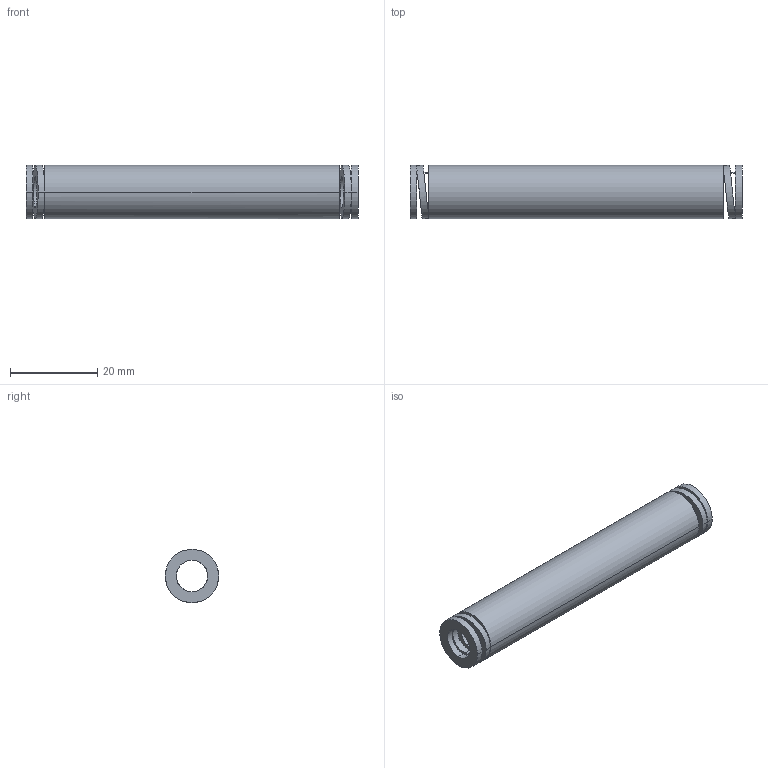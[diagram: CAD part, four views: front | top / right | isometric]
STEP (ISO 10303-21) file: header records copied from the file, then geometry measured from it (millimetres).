
FILE_DESCRIPTION(('CATIA V5 STEP Exchange'),'2;1');
FILE_NAME('C:\Users\Utente\Desktop\IO LAVORO\3D X SITO CF\X SITO\3D files 392B\392-B13-076.stp','2021-08-12T12:44:46+00:00',('none'),('none'),'CATIA Version 5 Release 20 GA (IN-10)','CATIA V5 STEP AP203','none');
FILE_SCHEMA(('CONFIG_CONTROL_DESIGN'));
Length unit declared in the file: millimetre
Products named in the file (1): 392-B13-076
Bounding box: 76 x 12.29 x 12.2 mm (x, y, z)
Volume: 5590.1 mm3; surface area: 5235.3 mm2
Topology: 1 solids, 1 shells, 38 faces, 92 edges, 64 vertices
Faces by surface type: cylinder 28, plane 10
Entity records: 1563 total; most frequent: CARTESIAN_POINT 670, ORIENTED_EDGE 184, DIRECTION 131, EDGE_CURVE 92, AXIS2_PLACEMENT_3D 66, VERTEX_POINT 64, EDGE_LOOP 56, ADVANCED_FACE 38
